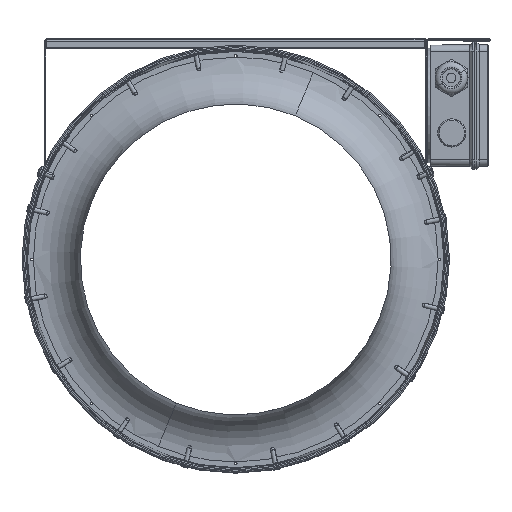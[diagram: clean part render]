
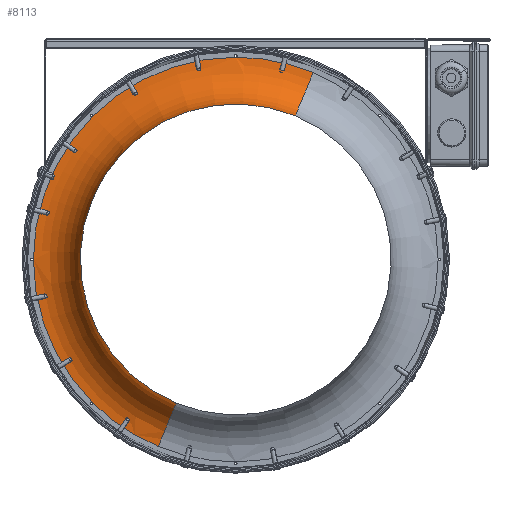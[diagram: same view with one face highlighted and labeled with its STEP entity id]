
A CAD part, top view. The second image highlights one B-rep face of the part: STEP entity #8113.
In plain terms, the highlighted toroidal (fillet/blend) face has major radius 151 mm and minor radius 35 mm.
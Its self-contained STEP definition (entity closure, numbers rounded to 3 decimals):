
#2133 = VERTEX_POINT ( 'NONE', #6247 ) ;
#2155 = VERTEX_POINT ( 'NONE', #6271 ) ;
#2256 = VERTEX_POINT ( 'NONE', #6040 ) ;
#4833 = CARTESIAN_POINT ( 'NONE',  ( -44.787, -104.038, -140.35 ) ) ;
#5180 = CARTESIAN_POINT ( 'NONE',  ( 57.39, 142.637, -140.35 ) ) ;
#5417 = DIRECTION ( 'NONE',  ( 0.383, 0.924, 0. ) ) ;
#5520 = DIRECTION ( 'NONE',  ( 0.383, 0.924, 0. ) ) ;
#5588 = CARTESIAN_POINT ( 'NONE',  ( -0.395, 3.132, -175.35 ) ) ;
#5589 = DIRECTION ( 'NONE',  ( 0., 0., -1. ) ) ;
#5803 = DIRECTION ( 'NONE',  ( 0.924, -0.383, 0. ) ) ;
#6040 = CARTESIAN_POINT ( 'NONE',  ( -151.395, 3.132, -175.35 ) ) ;
#6247 = CARTESIAN_POINT ( 'NONE',  ( -107.168, 109.905, -175.35 ) ) ;
#6271 = CARTESIAN_POINT ( 'NONE',  ( 43.996, 110.302, -140.35 ) ) ;
#6700 = CARTESIAN_POINT ( 'NONE',  ( -58.18, -136.374, -175.35 ) ) ;
#7390 = VERTEX_POINT ( 'NONE', #6700 ) ;
#7783 = VERTEX_POINT ( 'NONE', #21219 ) ;
#7977 = VERTEX_POINT ( 'NONE', #4833 ) ;
#8113 = ADVANCED_FACE ( 'NONE', ( #14568 ), #14549, .T. ) ;
#9118 = CARTESIAN_POINT ( 'NONE',  ( -58.18, -136.374, -140.35 ) ) ;
#9285 = DIRECTION ( 'NONE',  ( 0.383, 0.924, 0. ) ) ;
#9352 = DIRECTION ( 'NONE',  ( 0., 0., -1. ) ) ;
#9361 = DIRECTION ( 'NONE',  ( 0.383, 0.924, 0. ) ) ;
#9489 = CARTESIAN_POINT ( 'NONE',  ( -0.395, 154.132, -175.35 ) ) ;
#9509 = DIRECTION ( 'NONE',  ( -0.383, -0.924, 0. ) ) ;
#9528 = CARTESIAN_POINT ( 'NONE',  ( -0.395, 3.132, -175.35 ) ) ;
#9721 = CARTESIAN_POINT ( 'NONE',  ( -0.395, 3.132, -175.35 ) ) ;
#9931 = DIRECTION ( 'NONE',  ( 0., 0., -1. ) ) ;
#10025 = DIRECTION ( 'NONE',  ( -0.924, 0.383, 0. ) ) ;
#10070 = CARTESIAN_POINT ( 'NONE',  ( -107.168, -103.641, -175.35 ) ) ;
#11742 = DIRECTION ( 'NONE',  ( 0., 0., -1. ) ) ;
#11855 = DIRECTION ( 'NONE',  ( 0.383, 0.924, 0. ) ) ;
#11894 = CARTESIAN_POINT ( 'NONE',  ( -0.395, 3.132, -175.35 ) ) ;
#13468 = VERTEX_POINT ( 'NONE', #10070 ) ;
#13487 = VERTEX_POINT ( 'NONE', #9489 ) ;
#13835 = CIRCLE ( 'NONE', #28725, 151. ) ;
#14321 = CIRCLE ( 'NONE', #28448, 151. ) ;
#14549 = TOROIDAL_SURFACE ( 'NONE', #22627, 151., 35. ) ;
#14568 = FACE_OUTER_BOUND ( 'NONE', #18917, .T. ) ;
#14701 = CIRCLE ( 'NONE', #28843, 116. ) ;
#16141 = DIRECTION ( 'NONE',  ( -0.383, -0.924, 0. ) ) ;
#16284 = DIRECTION ( 'NONE',  ( 0., 0., 1. ) ) ;
#16298 = CARTESIAN_POINT ( 'NONE',  ( -0.395, 3.132, -140.35 ) ) ;
#16456 = EDGE_CURVE ( 'NONE', #13487, #7783, #22078, .T. ) ;
#16543 = EDGE_CURVE ( 'NONE', #13468, #2256, #21690, .T. ) ;
#16555 = EDGE_CURVE ( 'NONE', #7977, #7390, #21588, .T. ) ;
#16620 = EDGE_CURVE ( 'NONE', #2133, #13487, #21937, .T. ) ;
#16666 = EDGE_CURVE ( 'NONE', #2155, #7783, #22063, .T. ) ;
#16782 = EDGE_CURVE ( 'NONE', #7390, #13468, #13835, .T. ) ;
#16949 = EDGE_CURVE ( 'NONE', #2256, #2133, #14321, .T. ) ;
#17057 = EDGE_CURVE ( 'NONE', #2155, #7977, #14701, .T. ) ;
#18413 = DIRECTION ( 'NONE',  ( 0., 0., 1. ) ) ;
#18451 = DIRECTION ( 'NONE',  ( -0.383, -0.924, 0. ) ) ;
#18814 = CARTESIAN_POINT ( 'NONE',  ( -0.395, 3.132, -140.35 ) ) ;
#18917 = EDGE_LOOP ( 'NONE', ( #24852, #24938, #23973, #25065, #25059, #24178, #24124, #24112 ) ) ;
#21219 = CARTESIAN_POINT ( 'NONE',  ( 57.39, 142.637, -175.35 ) ) ;
#21588 = CIRCLE ( 'NONE', #28857, 35. ) ;
#21690 = CIRCLE ( 'NONE', #28416, 151. ) ;
#21937 = CIRCLE ( 'NONE', #28919, 151. ) ;
#22063 = CIRCLE ( 'NONE', #28746, 35. ) ;
#22078 = CIRCLE ( 'NONE', #28467, 151. ) ;
#22627 = AXIS2_PLACEMENT_3D ( 'NONE', #16298, #16284, #16141 ) ;
#23973 = ORIENTED_EDGE ( 'NONE', *, *, #16555, .T. ) ;
#24112 = ORIENTED_EDGE ( 'NONE', *, *, #16456, .T. ) ;
#24124 = ORIENTED_EDGE ( 'NONE', *, *, #16620, .T. ) ;
#24178 = ORIENTED_EDGE ( 'NONE', *, *, #16949, .T. ) ;
#24852 = ORIENTED_EDGE ( 'NONE', *, *, #16666, .F. ) ;
#24938 = ORIENTED_EDGE ( 'NONE', *, *, #17057, .T. ) ;
#25059 = ORIENTED_EDGE ( 'NONE', *, *, #16543, .T. ) ;
#25065 = ORIENTED_EDGE ( 'NONE', *, *, #16782, .T. ) ;
#25463 = DIRECTION ( 'NONE',  ( 0., 0., -1. ) ) ;
#25500 = CARTESIAN_POINT ( 'NONE',  ( -0.395, 3.132, -175.35 ) ) ;
#25877 = DIRECTION ( 'NONE',  ( 0.383, 0.924, 0. ) ) ;
#28416 = AXIS2_PLACEMENT_3D ( 'NONE', #9721, #9352, #9361 ) ;
#28448 = AXIS2_PLACEMENT_3D ( 'NONE', #25500, #25463, #25877 ) ;
#28467 = AXIS2_PLACEMENT_3D ( 'NONE', #9528, #9931, #9285 ) ;
#28725 = AXIS2_PLACEMENT_3D ( 'NONE', #11894, #11742, #11855 ) ;
#28746 = AXIS2_PLACEMENT_3D ( 'NONE', #5180, #5803, #5417 ) ;
#28843 = AXIS2_PLACEMENT_3D ( 'NONE', #18814, #18413, #18451 ) ;
#28857 = AXIS2_PLACEMENT_3D ( 'NONE', #9118, #10025, #9509 ) ;
#28919 = AXIS2_PLACEMENT_3D ( 'NONE', #5588, #5589, #5520 ) ;
